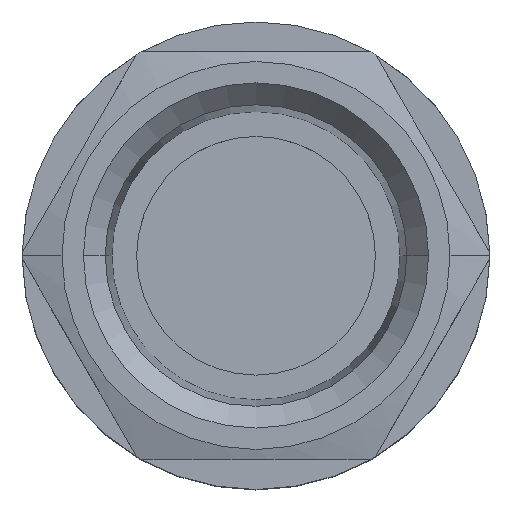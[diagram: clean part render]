
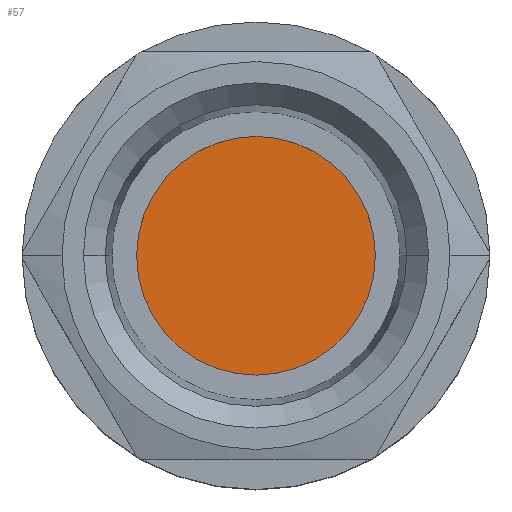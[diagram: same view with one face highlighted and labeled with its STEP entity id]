
A CAD part, top view. The second image highlights one B-rep face of the part: STEP entity #57.
In plain terms, the highlighted planar face has unit normal (0, 0, 1).
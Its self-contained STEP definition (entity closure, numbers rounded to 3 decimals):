
#57=ADVANCED_FACE('',(#287),#286,.F.);
#286=PLANE('',#932);
#287=FACE_OUTER_BOUND('',#933,.T.);
#929=CARTESIAN_POINT('',(27.6,-24.942,39.9));
#930=DIRECTION('',(0.,0.,-1.));
#931=DIRECTION('',(-1.,0.,0.));
#932=AXIS2_PLACEMENT_3D('',#929,#930,#931);
#933=EDGE_LOOP('',(#1462,#1463));
#1462=ORIENTED_EDGE('',*,*,#1793,.F.);
#1463=ORIENTED_EDGE('',*,*,#1794,.F.);
#1793=EDGE_CURVE('',#2324,#2325,#2326,.T.);
#1794=EDGE_CURVE('',#2325,#2324,#2332,.T.);
#2324=VERTEX_POINT('',#3325);
#2325=VERTEX_POINT('',#3326);
#2326=CIRCLE('',#3330,12.);
#2332=CIRCLE('',#3334,12.);
#3325=CARTESIAN_POINT('',(12.,0.,39.9));
#3326=CARTESIAN_POINT('',(-12.,0.,39.9));
#3327=CARTESIAN_POINT('',(0.,0.,39.9));
#3328=DIRECTION('',(0.,0.,-1.));
#3329=DIRECTION('',(-1.,0.,0.));
#3330=AXIS2_PLACEMENT_3D('',#3327,#3328,#3329);
#3331=CARTESIAN_POINT('',(0.,0.,39.9));
#3332=DIRECTION('',(0.,0.,-1.));
#3333=DIRECTION('',(-1.,0.,0.));
#3334=AXIS2_PLACEMENT_3D('',#3331,#3332,#3333);
